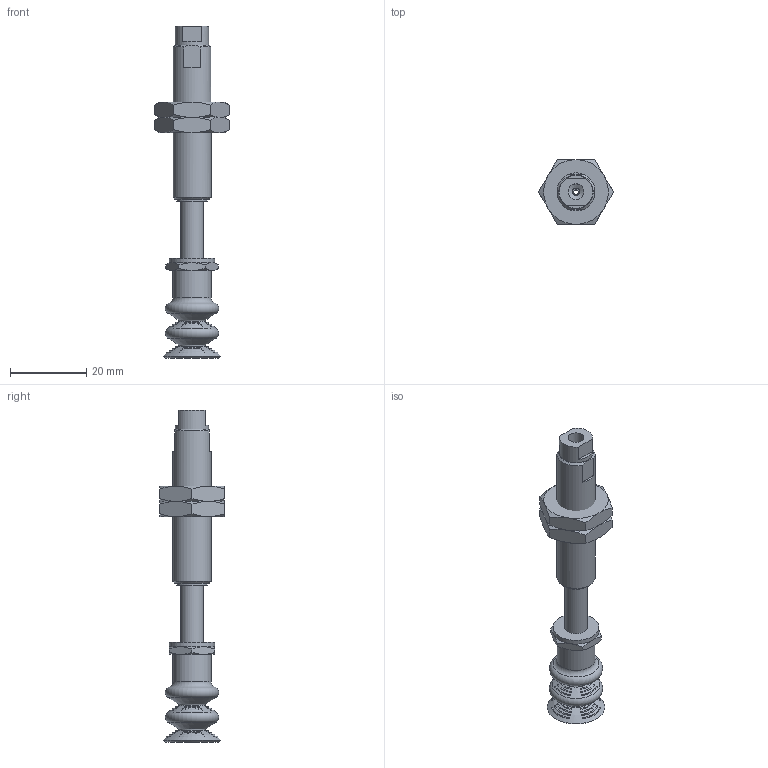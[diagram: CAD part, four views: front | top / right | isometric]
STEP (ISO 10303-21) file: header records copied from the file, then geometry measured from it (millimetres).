
FILE_DESCRIPTION(('STEP AP203'),'1');
FILE_NAME('-LB.stp','2025-10-10T05:45:13',(' '),(' '),'Spatial InterOp 3D',' ',' ');
FILE_SCHEMA(('CONFIG_CONTROL_DESIGN'));
Length unit declared in the file: millimetre
Products named in the file (7): BNABPCTH-15-15-※-LB; NUT; __; BODY; BPCG-15-※; TN-PC-10-M5
Assembly tree (6 placements, depth 2):
  BNABPCTH-15-15-※-LB
    NUT
    NUT
    __
    BODY
    BPCG-15-※
    TN-PC-10-M5
Bounding box: 19.63 x 17 x 87.2 mm (x, y, z)
Volume: 7258.1 mm3; surface area: 6019.3 mm2
Topology: 6 solids, 6 shells, 201 faces, 624 edges, 405 vertices
Faces by surface type: sphere 58, cone 49, plane 43, torus 34, cylinder 17
Full cylindrical faces by diameter (mm): 1.25 x1, 2 x1, 4.2 x2, 5 x5, 6 x1, 8 x1, 8.7 x1, 9 x2, 10 x2, 12 x1
Entity records: 6167 total; most frequent: CARTESIAN_POINT 1599, DIRECTION 924, ORIENTED_EDGE 788, AXIS2_PLACEMENT_3D 446, EDGE_CURVE 394, EDGE_LOOP 282, VERTEX_POINT 274, CIRCLE 238
